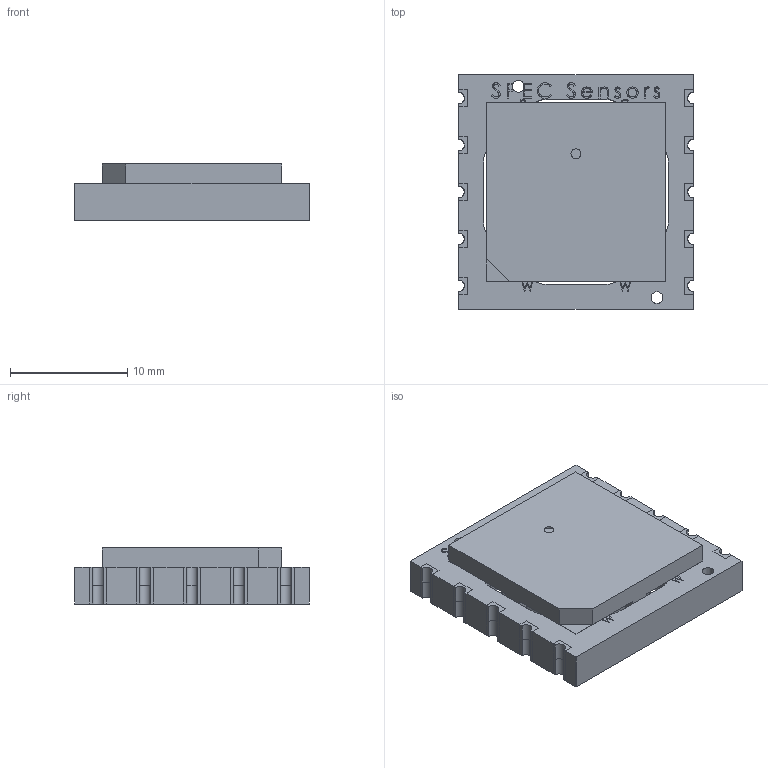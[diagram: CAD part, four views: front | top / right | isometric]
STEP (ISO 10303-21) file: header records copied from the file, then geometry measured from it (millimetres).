
FILE_DESCRIPTION (( 'STEP AP214' ), '1' );
FILE_NAME ('110-007 STEP.STEP', '2023-06-20T19:34:34', ( '' ), ( '' ), 'SwSTEP 2.0', 'SolidWorks 2017', '' );
FILE_SCHEMA (( 'AUTOMOTIVE_DESIGN' ));
Length unit declared in the file: millimetre
Products named in the file (4): semicircle barcode label; 981-013; 100-001 STEP; 110-007 STEP
Assembly tree (3 placements, depth 2):
  110-007 STEP
    100-001 STEP
    semicircle barcode label
    981-013
Bounding box: 20.01 x 20 x 4.77 mm (x, y, z)
Volume: 1369.8 mm3; surface area: 2108.4 mm2
Topology: 32 solids, 32 shells, 582 faces, 1552 edges, 1040 vertices
Faces by surface type: plane 362, bspline 123, cylinder 97
Full cylindrical faces by diameter (mm): 0.35 x1, 0.75 x24, 0.85 x1, 1 x10
Entity records: 27536 total; most frequent: CARTESIAN_POINT 9291, ORIENTED_EDGE 3000, DIRECTION 2378, EDGE_CURVE 1500, LINE 1060, VECTOR 1060, VERTEX_POINT 1024, EDGE_LOOP 700
